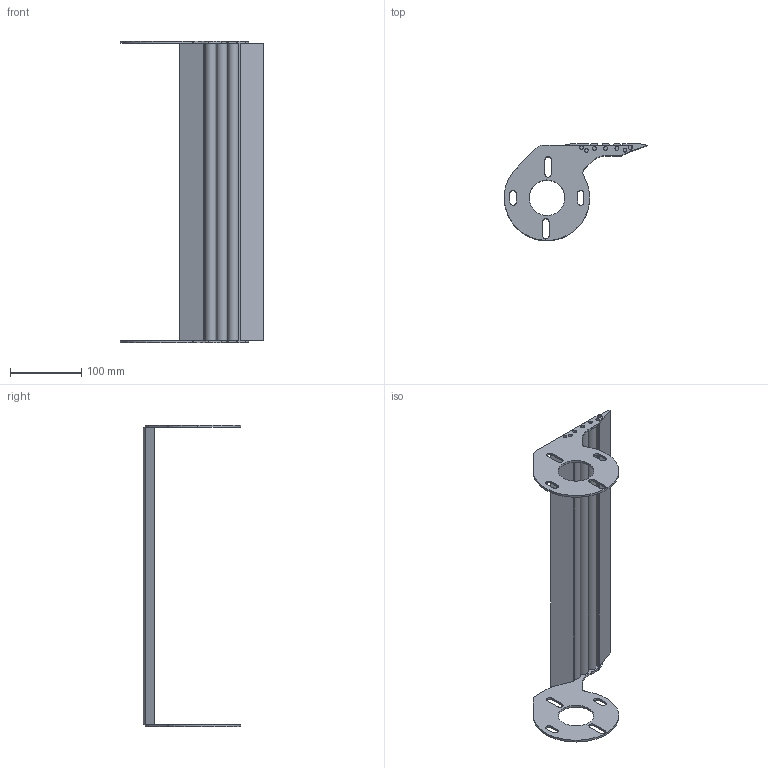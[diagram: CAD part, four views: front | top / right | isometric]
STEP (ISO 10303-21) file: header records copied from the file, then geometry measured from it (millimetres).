
FILE_DESCRIPTION (( 'STEP AP214' ), '1' );
FILE_NAME ('F2 1500 TG2R.step', '2017-04-05T06:48:32', ( '' ), ( '' ), 'SwSTEP 2.0', 'SolidWorks 2015', '' );
FILE_SCHEMA (( 'AUTOMOTIVE_DESIGN' ));
Length unit declared in the file: millimetre
Products named in the file (1): F2 1500 TG2R
Bounding box: 201.6 x 136.54 x 424 mm (x, y, z)
Volume: 517855.8 mm3; surface area: 180948.1 mm2
Topology: 1 solids, 1 shells, 157 faces, 427 edges, 278 vertices
Faces by surface type: plane 84, cylinder 73
Entity records: 6598 total; most frequent: DIRECTION 901, CARTESIAN_POINT 863, ORIENTED_EDGE 854, EDGE_CURVE 427, AXIS2_PLACEMENT_3D 316, VERTEX_POINT 278, LINE 269, VECTOR 269
